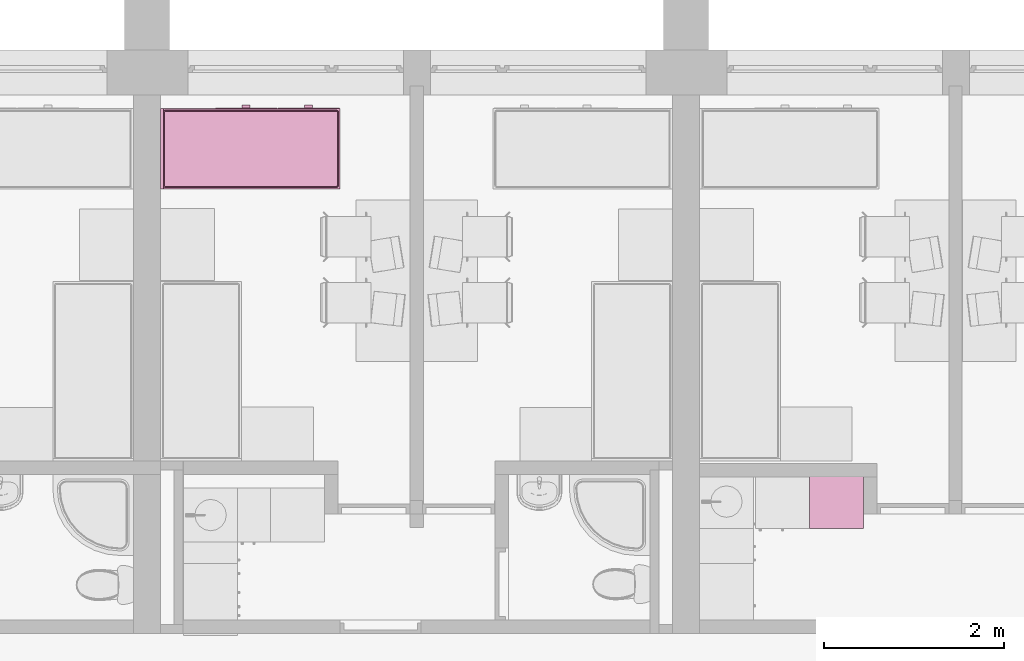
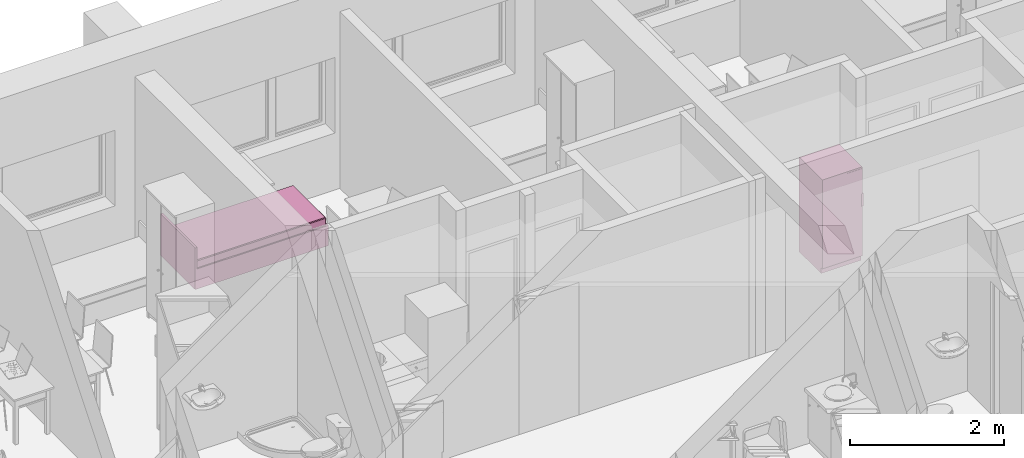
# One storey, part 133 of 165: 2 furnishings.
"""IFC2X3 building model written with IfcOpenShell, lengths in millimetres."""

from ifc_helpers import new_model, entity, si_unit, converted_unit, money_unit, direction, frame, origin_with_axes, place, context, subcontext, project, spatial, open_shell, faceted_brep, surface_model, source, transform, mapped, material, material_list, type_object, element, save


model = new_model("IFC2X3")

# Units and contexts
model_context = context("Model", 3, precision=1e-05, world=origin_with_axes(), true_north=direction((0.0, 1.0)))
body_context = subcontext(model_context, "Body", "Model", "MODEL_VIEW")
ifc_project = project(units=[si_unit("LENGTHUNIT", "METRE", prefix="MILLI"), si_unit("AREAUNIT", "SQUARE_METRE"), si_unit("VOLUMEUNIT", "CUBIC_METRE"), converted_unit("PLANEANGLEUNIT", "DEGREE", entity("IfcPlaneAngleMeasure", 0.0174532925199), si_unit("PLANEANGLEUNIT", "RADIAN"), dimensions=[0, 0, 0, 0, 0, 0, 0]), si_unit("SOLIDANGLEUNIT", "STERADIAN"), money_unit("USD"), converted_unit("TIMEUNIT", "Year", entity("IfcTimeMeasure", 31556926.0), si_unit("TIMEUNIT", "SECOND"), dimensions=[0, 0, 0, 0, 0, 0, 0]), si_unit("MASSUNIT", "GRAM"), si_unit("THERMODYNAMICTEMPERATUREUNIT", "DEGREE_CELSIUS"), si_unit("LUMINOUSINTENSITYUNIT", "LUMEN")], contexts=[model_context])

# Site, building, storey
site_placement = place(None, origin_with_axes())
site = spatial("IfcSite", under=ifc_project, at=site_placement, Name="Site", CompositionType="ELEMENT")
building_placement = place(site_placement, origin_with_axes())
building = spatial("IfcBuilding", under=site, at=building_placement, Name="Building", CompositionType="ELEMENT")
storey_placement = place(building_placement, frame((0.0, 0.0, 6300.0), z_axis=(0.0, 0.0, 1.0), x_axis=(1.0, 0.0, 0.0)))
storey = spatial("IfcBuildingStorey", under=building, at=storey_placement, Name="4KORRUS", CompositionType="ELEMENT", Elevation=6300.0)

# Furnishings
ifc_material = material(Name="Background")
ifc_material_list = material_list([ifc_material])
furnishing_element_type_1 = type_object("IfcFurnishingElementType", Name="Bed 19")
shared_shape_1 = source(origin_with_axes(), body_context, "Body", "Brep", [
    faceted_brep([(900.0, 1970.0, 0.0), (0.0, 1970.0, 0.0), (0.0, 2000.0, 0.0), (900.0, 2000.0, 0.0), (900.0, 1970.0, 660.0), (0.0, 1970.0, 660.0), (0.0, 2000.0, 660.0), (900.0, 2000.0, 660.0)], [[[0, 1, 2, 3]], [[1, 0, 4, 5]], [[2, 1, 5, 6]], [[3, 2, 6, 7]], [[0, 3, 7, 4]], [[5, 4, 7, 6]]]),
    faceted_brep([(900.0, 0.0, 0.0), (0.0, 0.0, 0.0), (0.0, 1970.0, 0.0), (900.0, 1970.0, 0.0), (900.0, 0.0, 320.0), (0.0, 0.0, 320.0), (0.0, 1970.0, 320.0), (900.0, 1970.0, 320.0)], [[[0, 1, 2, 3]], [[1, 0, 4, 5]], [[2, 1, 5, 6]], [[3, 2, 6, 7]], [[0, 3, 7, 4]], [[5, 4, 7, 6]]]),
    faceted_brep([(905.0, 10.0, 30.0), (900.0, 10.0, 30.0), (900.0, 695.0, 30.0), (905.0, 695.0, 30.0), (905.0, 10.0, 290.0), (900.0, 10.0, 290.0), (900.0, 695.0, 290.0), (905.0, 695.0, 290.0)], [[[0, 1, 2, 3]], [[1, 0, 4, 5]], [[2, 1, 5, 6]], [[3, 2, 6, 7]], [[0, 3, 7, 4]], [[5, 4, 7, 6]]]),
    faceted_brep([(935.0, 307.5, 150.0), (905.0, 307.5, 150.0), (905.0, 397.5, 150.0), (935.0, 397.5, 150.0), (935.0, 307.5, 170.0), (905.0, 307.5, 170.0), (905.0, 397.5, 170.0), (935.0, 397.5, 170.0)], [[[0, 1, 2, 3]], [[1, 0, 4, 5]], [[2, 1, 5, 6]], [[3, 2, 6, 7]], [[0, 3, 7, 4]], [[5, 4, 7, 6]]]),
    faceted_brep([(905.0, 705.0, 30.0), (900.0, 705.0, 30.0), (900.0, 1390.0, 30.0), (905.0, 1390.0, 30.0), (905.0, 705.0, 290.0), (900.0, 705.0, 290.0), (900.0, 1390.0, 290.0), (905.0, 1390.0, 290.0)], [[[0, 1, 2, 3]], [[1, 0, 4, 5]], [[2, 1, 5, 6]], [[3, 2, 6, 7]], [[0, 3, 7, 4]], [[5, 4, 7, 6]]]),
    faceted_brep([(935.0, 1002.5, 150.0), (905.0, 1002.5, 150.0), (905.0, 1092.5, 150.0), (935.0, 1092.5, 150.0), (935.0, 1002.5, 170.0), (905.0, 1002.5, 170.0), (905.0, 1092.5, 170.0), (935.0, 1092.5, 170.0)], [[[0, 1, 2, 3]], [[1, 0, 4, 5]], [[2, 1, 5, 6]], [[3, 2, 6, 7]], [[0, 3, 7, 4]], [[5, 4, 7, 6]]]),
    faceted_brep([(20.0, 40.0, 350.0), (20.0, 1950.0, 350.0), (21.522, 1957.654, 350.0), (25.858, 1964.142, 350.0), (32.346, 1968.478, 350.0), (40.0, 1970.0, 350.0), (860.0, 1970.0, 350.0), (867.654, 1968.478, 350.0), (874.142, 1964.142, 350.0), (878.478, 1957.654, 350.0), (880.0, 1950.0, 350.0), (880.0, 40.0, 350.0), (878.478, 32.346, 350.0), (874.142, 25.858, 350.0), (867.654, 21.522, 350.0), (860.0, 20.0, 350.0), (40.0, 20.0, 350.0), (32.346, 21.522, 350.0), (25.858, 25.858, 350.0), (21.522, 32.346, 350.0), (20.0, 40.0, 420.0), (20.0, 1950.0, 420.0), (21.522, 1957.654, 420.0), (25.858, 1964.142, 420.0), (32.346, 1968.478, 420.0), (40.0, 1970.0, 420.0), (860.0, 1970.0, 420.0), (867.654, 1968.478, 420.0), (874.142, 1964.142, 420.0), (878.478, 1957.654, 420.0), (880.0, 1950.0, 420.0), (880.0, 40.0, 420.0), (878.478, 32.346, 420.0), (874.142, 25.858, 420.0), (867.654, 21.522, 420.0), (860.0, 20.0, 420.0), (40.0, 20.0, 420.0), (32.346, 21.522, 420.0), (25.858, 25.858, 420.0), (21.522, 32.346, 420.0), (21.522, 40.15, 427.654), (21.522, 1949.85, 427.654), (22.956, 1957.06, 427.654), (26.955, 1963.045, 427.654), (32.94, 1967.044, 427.654), (40.15, 1968.478, 427.654), (859.85, 1968.478, 427.654), (867.06, 1967.044, 427.654), (873.045, 1963.045, 427.654), (877.044, 1957.06, 427.654), (878.478, 1949.85, 427.654), (878.478, 40.15, 427.654), (877.044, 32.94, 427.654), (873.045, 26.955, 427.654), (867.06, 22.956, 427.654), (859.85, 21.522, 427.654), (40.15, 21.522, 427.654), (32.94, 22.956, 427.654), (26.955, 26.955, 427.654), (22.956, 32.94, 427.654), (32.346, 41.216, 438.478), (32.346, 1948.784, 438.478), (33.152, 1952.836, 438.478), (34.759, 1955.241, 438.478), (37.164, 1956.848, 438.478), (41.216, 1957.654, 438.478), (858.784, 1957.654, 438.478), (862.836, 1956.848, 438.478), (865.241, 1955.241, 438.478), (866.848, 1952.836, 438.478), (867.654, 1948.784, 438.478), (867.654, 41.216, 438.478), (866.848, 37.164, 438.478), (865.241, 34.759, 438.478), (862.836, 33.152, 438.478), (858.784, 32.346, 438.478), (41.216, 32.346, 438.478), (37.164, 33.152, 438.478), (34.759, 34.759, 438.478), (33.152, 37.164, 438.478), (40.0, 41.97, 440.0), (40.0, 1948.03, 440.0), (40.327, 1949.673, 440.0), (40.0, 1950.0, 439.924), (41.97, 1950.0, 440.0), (858.03, 1950.0, 440.0), (859.673, 1949.673, 440.0), (860.0, 1950.0, 439.924), (860.0, 1948.03, 440.0), (860.0, 41.97, 440.0), (859.673, 40.327, 440.0), (860.0, 40.0, 439.924), (858.03, 40.0, 440.0), (41.97, 40.0, 440.0), (40.327, 40.327, 440.0), (40.0, 40.0, 439.924)], [[[0, 1, 2, 3, 4, 5, 6, 7, 8, 9, 10, 11, 12, 13, 14, 15, 16, 17, 18, 19]], [[1, 0, 20, 21]], [[2, 1, 21, 22]], [[3, 2, 22, 23]], [[4, 3, 23, 24]], [[5, 4, 24, 25]], [[6, 5, 25, 26]], [[7, 6, 26, 27]], [[8, 7, 27, 28]], [[9, 8, 28, 29]], [[10, 9, 29, 30]], [[11, 10, 30, 31]], [[12, 11, 31, 32]], [[13, 12, 32, 33]], [[14, 13, 33, 34]], [[15, 14, 34, 35]], [[16, 15, 35, 36]], [[17, 16, 36, 37]], [[18, 17, 37, 38]], [[19, 18, 38, 39]], [[0, 19, 39, 20]], [[21, 20, 40, 41]], [[22, 21, 41, 42]], [[23, 22, 42, 43]], [[24, 23, 43, 44]], [[25, 24, 44, 45]], [[26, 25, 45, 46]], [[27, 26, 46, 47]], [[28, 27, 47, 48]], [[29, 28, 48, 49]], [[30, 29, 49, 50]], [[31, 30, 50, 51]], [[32, 31, 51, 52]], [[33, 32, 52, 53]], [[34, 33, 53, 54]], [[35, 34, 54, 55]], [[36, 35, 55, 56]], [[37, 36, 56, 57]], [[38, 37, 57, 58]], [[39, 38, 58, 59]], [[20, 39, 59, 40]], [[41, 40, 60, 61]], [[42, 41, 61, 62]], [[43, 42, 62, 63]], [[44, 43, 63, 64]], [[45, 44, 64, 65]], [[46, 45, 65, 66]], [[47, 46, 66, 67]], [[48, 47, 67, 68]], [[49, 48, 68, 69]], [[50, 49, 69, 70]], [[51, 50, 70, 71]], [[52, 51, 71, 72]], [[53, 52, 72, 73]], [[54, 53, 73, 74]], [[55, 54, 74, 75]], [[56, 55, 75, 76]], [[57, 56, 76, 77]], [[58, 57, 77, 78]], [[59, 58, 78, 79]], [[40, 59, 79, 60]], [[61, 60, 80, 81]], [[62, 61, 81, 82, 83]], [[63, 62, 83]], [[64, 63, 83]], [[65, 64, 83, 82, 84]], [[66, 65, 84, 85]], [[67, 66, 85, 86, 87]], [[68, 67, 87]], [[69, 68, 87]], [[70, 69, 87, 86, 88]], [[71, 70, 88, 89]], [[72, 71, 89, 90, 91]], [[73, 72, 91]], [[74, 73, 91]], [[75, 74, 91, 90, 92]], [[76, 75, 92, 93]], [[77, 76, 93, 94, 95]], [[78, 77, 95]], [[79, 78, 95]], [[60, 79, 95, 94, 80]], [[81, 80, 94, 93, 92, 90, 89, 88, 86, 85, 84, 82]]]),
    faceted_brep([(20.0, 40.0, 350.0), (21.522, 32.346, 350.0), (25.858, 25.858, 350.0), (32.346, 21.522, 350.0), (40.0, 20.0, 350.0), (860.0, 20.0, 350.0), (867.654, 21.522, 350.0), (874.142, 25.858, 350.0), (878.478, 32.346, 350.0), (880.0, 40.0, 350.0), (880.0, 1950.0, 350.0), (878.478, 1957.654, 350.0), (874.142, 1964.142, 350.0), (867.654, 1968.478, 350.0), (860.0, 1970.0, 350.0), (40.0, 1970.0, 350.0), (32.346, 1968.478, 350.0), (25.858, 1964.142, 350.0), (21.522, 1957.654, 350.0), (20.0, 1950.0, 350.0), (20.0, 40.0, 320.0), (21.522, 32.346, 320.0), (25.858, 25.858, 320.0), (32.346, 21.522, 320.0), (40.0, 20.0, 320.0), (860.0, 20.0, 320.0), (867.654, 21.522, 320.0), (874.142, 25.858, 320.0), (878.478, 32.346, 320.0), (880.0, 40.0, 320.0), (880.0, 1950.0, 320.0), (878.478, 1957.654, 320.0), (874.142, 1964.142, 320.0), (867.654, 1968.478, 320.0), (860.0, 1970.0, 320.0), (40.0, 1970.0, 320.0), (32.346, 1968.478, 320.0), (25.858, 1964.142, 320.0), (21.522, 1957.654, 320.0), (20.0, 1950.0, 320.0)], [[[0, 1, 2, 3, 4, 5, 6, 7, 8, 9, 10, 11, 12, 13, 14, 15, 16, 17, 18, 19]], [[0, 20, 21, 1]], [[1, 21, 22, 2]], [[2, 22, 23, 3]], [[3, 23, 24, 4]], [[4, 24, 25, 5]], [[5, 25, 26, 6]], [[6, 26, 27, 7]], [[7, 27, 28, 8]], [[8, 28, 29, 9]], [[9, 29, 30, 10]], [[10, 30, 31, 11]], [[11, 31, 32, 12]], [[12, 32, 33, 13]], [[13, 33, 34, 14]], [[14, 34, 35, 15]], [[15, 35, 36, 16]], [[16, 36, 37, 17]], [[17, 37, 38, 18]], [[18, 38, 39, 19]], [[19, 39, 20, 0]], [[20, 39, 38, 37, 36, 35, 34, 33, 32, 31, 30, 29, 28, 27, 26, 25, 24, 23, 22, 21]]]),
])
furnishing_1_placement = place(storey_placement, frame((2009.70329669, -6189.6041535, 0.0), z_axis=(0.0, 0.0, 1.0), x_axis=(0.0, 1.0, 0.0)))
element("IfcFurnishingElement", 1, at=furnishing_1_placement, inside=storey, type_object=furnishing_element_type_1, material=ifc_material_list, Name="FU - 013", context=body_context, shape_type="MappedRepresentation", body=[
    mapped(shared_shape_1, transform((0.0, 0.0, 0.0))),
])
furnishing_element_type_2 = type_object("IfcFurnishingElementType", Name="Refrigerator 19")
shared_shape_2 = source(origin_with_axes(), body_context, "Body", "SurfaceModel", [
    faceted_brep([(0.0, 0.0, 1475.0), (600.0, 0.0, 1475.0), (600.0, 0.0, 1500.0), (0.0, 0.0, 1500.0), (0.0, 600.0, 1475.0), (600.0, 600.0, 1475.0), (600.0, 600.0, 1500.0), (0.0, 600.0, 1500.0)], [[[0, 1, 2, 3]], [[0, 4, 5, 1]], [[1, 5, 6, 2]], [[3, 2, 6, 7]], [[4, 0, 3, 7]], [[5, 4, 7, 6]]]),
    faceted_brep([(0.0, 65.0, 0.0), (600.0, 65.0, 0.0), (600.0, 65.0, 1475.0), (0.0, 65.0, 1475.0), (0.0, 600.0, 0.0), (600.0, 600.0, 0.0), (600.0, 600.0, 1475.0), (0.0, 600.0, 1475.0)], [[[0, 1, 2, 3]], [[0, 4, 5, 1]], [[1, 5, 6, 2]], [[3, 2, 6, 7]], [[4, 0, 3, 7]], [[5, 4, 7, 6]]]),
    faceted_brep([(0.0, 30.0, 0.0), (600.0, 30.0, 0.0), (600.0, 30.0, 90.0), (0.0, 30.0, 90.0), (0.0, 60.0, 0.0), (600.0, 60.0, 0.0), (600.0, 60.0, 90.0), (0.0, 60.0, 90.0)], [[[0, 1, 2, 3]], [[0, 4, 5, 1]], [[1, 5, 6, 2]], [[3, 2, 6, 7]], [[4, 0, 3, 7]], [[5, 4, 7, 6]]]),
    faceted_brep([(0.0, 60.0, 90.0), (600.0, 60.0, 90.0), (600.0, 0.0, 90.0), (0.0, 0.0, 90.0), (0.0, 60.0, 1474.5), (600.0, 60.0, 1474.5), (600.0, 0.0, 1474.5), (0.0, 0.0, 1474.5)], [[[0, 1, 2, 3]], [[0, 4, 5, 1]], [[1, 5, 6, 2]], [[3, 2, 6, 7]], [[4, 0, 3, 7]], [[5, 4, 7, 6]]]),
    surface_model("IfcShellBasedSurfaceModel", [(600.0, -30.0, 900.0), (600.0, -30.0, 1100.0), (600.0, 0.0, 1100.0), (600.0, 0.0, 900.0)], [open_shell([[[0, 1, 2, 3]]])]),
    surface_model("IfcShellBasedSurfaceModel", [(600.0, -30.0, 900.0), (600.0, -30.0, 1100.0), (570.0, -30.0, 1100.0), (570.0, -30.0, 900.0)], [open_shell([[[0, 1, 2, 3]]])]),
])
furnishing_2_placement = place(storey_placement, frame((7234.2564771, -9967.37850445, 0.0), z_axis=(0.0, 0.0, 1.0), x_axis=(1.0, 0.0, 0.0)))
element("IfcFurnishingElement", 2, at=furnishing_2_placement, inside=storey, type_object=furnishing_element_type_2, material=ifc_material_list, Name="FU - 007", context=body_context, shape_type="MappedRepresentation", body=[
    mapped(shared_shape_2, transform((0.0, 0.0, 0.0))),
])

save(model, "model.ifc")
